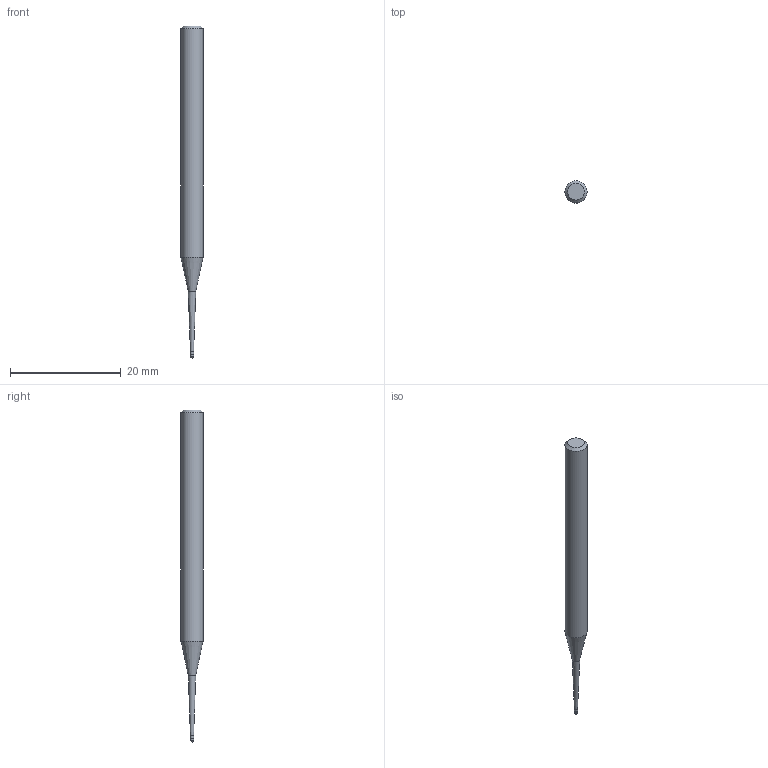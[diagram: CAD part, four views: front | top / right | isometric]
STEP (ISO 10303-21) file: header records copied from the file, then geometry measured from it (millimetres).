
FILE_DESCRIPTION((''),'2;1');
FILE_NAME('C:\Users\nsx150\AppData\Local\Temp\Mastercam 2021\SNAKH10GOD\TEMP.step','2021-10-21T13:31:38',(''),(''),'STEP Write','Mastercam 2021 ... CNC Software, Inc.','');
FILE_SCHEMA(('AUTOMOTIVE_DESIGN'));
Length unit declared in the file: millimetre
Products named in the file (1): None
Bounding box: 4 x 4 x 60 mm (x, y, z)
Volume: 570 mm3; surface area: 622.6 mm2
Topology: 2 solids, 2 shells, 10 faces, 16 edges, 9 vertices
Faces by surface type: plane 3, cylinder 3, cone 3, sphere 1
Full cylindrical faces by diameter (mm): 0.585 x1, 0.6 x1, 4 x1
Entity records: 232 total; most frequent: DIRECTION 40, CARTESIAN_POINT 28, AXIS2_PLACEMENT_3D 20, ORIENTED_EDGE 16, EDGE_LOOP 16, STYLED_ITEM 13, ADVANCED_FACE 10, FACE_BOUND 9
